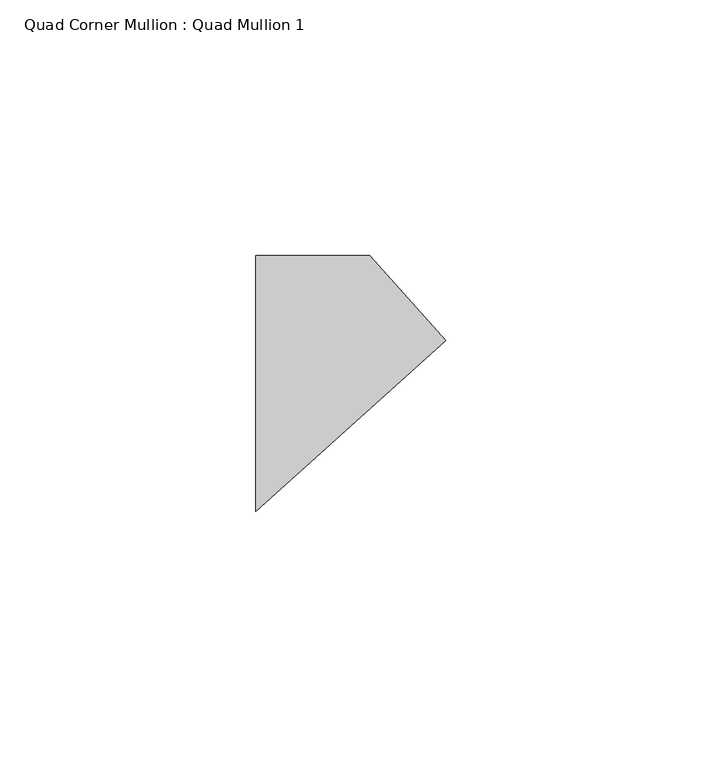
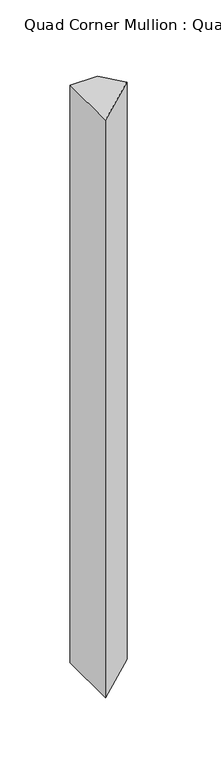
"""IFC4 building model written with IfcOpenShell, lengths in millimetres: member geometry, Quad Corner Mullion : Quad Mullion 1."""

from ifc_helpers import new_model, si_unit, frame, origin, place, context, project, spatial, polyline, outline, extrude, source, transform, mapped, element, save


def quad_corner_mullion_quad_mullion_1_18cd7f20(model_context):
    return source(origin(), model_context, "Body", "SweptSolid", [
        extrude(outline(polyline([(26.0265241, 8.4565303), (-11.1307171, -25.0), (-11.1307171, 25.0), (11.1307171, 25.0), (26.0265241, 8.4565303)])), frame((0.0, 0.0, -500.0), z_axis=(0.0, 0.0, 1.0), x_axis=(1.0, 0.0, 0.0)), (0.0, 0.0, 1.0), 500.0),
    ])


if __name__ == "__main__":
    model = new_model("IFC4")
    model_context = context("Model", 3, world=origin())
    ifc_project = project(units=[si_unit("LENGTHUNIT", "METRE", prefix="MILLI")], contexts=[model_context])
    site = spatial("IfcSite", under=ifc_project)
    building = spatial("IfcBuilding", under=site)
    placement = place(None, origin())
    quad_corner_mullion_quad_mullion_1_shape = quad_corner_mullion_quad_mullion_1_18cd7f20(model_context)
    element("IfcMember", 1, ObjectType="Quad Corner Mullion : Quad Mullion 1", at=placement, inside=building, context=model_context, shape_type="MappedRepresentation", body=[
        mapped(quad_corner_mullion_quad_mullion_1_shape, transform((0.0, 0.0, 0.0), x_axis=(1.0, 0.0, 0.0), y_axis=(0.0, 1.0, 0.0), z_axis=(0.0, 0.0, 1.0))),
    ])
    save(model, "model.ifc")
